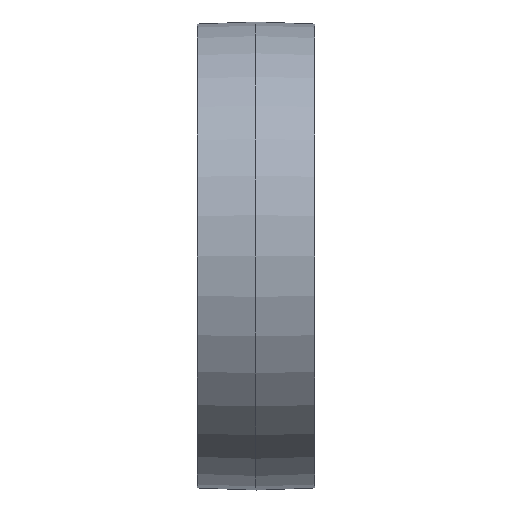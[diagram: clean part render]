
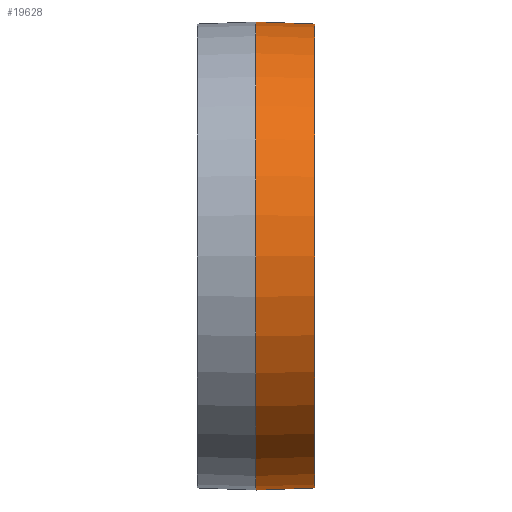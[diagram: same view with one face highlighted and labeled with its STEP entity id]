
A CAD part, front view. The second image highlights one B-rep face of the part: STEP entity #19628.
In plain terms, the highlighted conical face has half-angle 2 degrees and reference radius 50.356 mm.
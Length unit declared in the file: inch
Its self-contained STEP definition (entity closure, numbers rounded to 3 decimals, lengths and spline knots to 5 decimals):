
#237 = DIRECTION ( 'NONE',  ( -1., 0., 0. ) ) ;
#1628 = VECTOR ( 'NONE', #19383, 39.37008 ) ;
#2328 = VERTEX_POINT ( 'NONE', #13305 ) ;
#2577 = LINE ( 'NONE', #7606, #1628 ) ;
#2755 = ORIENTED_EDGE ( 'NONE', *, *, #21685, .F. ) ;
#5262 = DIRECTION ( 'NONE',  ( 0., 0., -1. ) ) ;
#5273 = CARTESIAN_POINT ( 'NONE',  ( 0.45181, 0., 0. ) ) ;
#6274 = LINE ( 'NONE', #21516, #19907 ) ;
#6960 = DIRECTION ( 'NONE',  ( 0., 0., -1. ) ) ;
#7098 = VERTEX_POINT ( 'NONE', #8703 ) ;
#7370 = CARTESIAN_POINT ( 'NONE',  ( -0.04819, 0., 2. ) ) ;
#7376 = CIRCLE ( 'NONE', #10235, 1.98254 ) ;
#7606 = CARTESIAN_POINT ( 'NONE',  ( 0.45181, 0., -1.98254 ) ) ;
#7942 = DIRECTION ( 'NONE',  ( -0.999, 0., 0.035 ) ) ;
#8051 = AXIS2_PLACEMENT_3D ( 'NONE', #12307, #8741, #5262 ) ;
#8179 = VERTEX_POINT ( 'NONE', #8492 ) ;
#8492 = CARTESIAN_POINT ( 'NONE',  ( 0.45181, 0., 1.98254 ) ) ;
#8703 = CARTESIAN_POINT ( 'NONE',  ( 0.45181, 0., -1.98254 ) ) ;
#8741 = DIRECTION ( 'NONE',  ( -1., 0., 0. ) ) ;
#10235 = AXIS2_PLACEMENT_3D ( 'NONE', #18492, #18262, #21630 ) ;
#12293 = AXIS2_PLACEMENT_3D ( 'NONE', #5273, #237, #6960 ) ;
#12307 = CARTESIAN_POINT ( 'NONE',  ( -0.04819, 0., 0. ) ) ;
#13305 = CARTESIAN_POINT ( 'NONE',  ( -0.04819, 0., -2. ) ) ;
#13337 = ORIENTED_EDGE ( 'NONE', *, *, #21624, .F. ) ;
#14765 = EDGE_CURVE ( 'NONE', #8179, #16183, #6274, .T. ) ;
#14808 = EDGE_CURVE ( 'NONE', #7098, #8179, #7376, .T. ) ;
#14984 = EDGE_LOOP ( 'NONE', ( #19226, #18983, #13337, #2755 ) ) ;
#16183 = VERTEX_POINT ( 'NONE', #7370 ) ;
#17167 = FACE_OUTER_BOUND ( 'NONE', #14984, .T. ) ;
#17726 = CIRCLE ( 'NONE', #8051, 2. ) ;
#18262 = DIRECTION ( 'NONE',  ( -1., 0., 0. ) ) ;
#18492 = CARTESIAN_POINT ( 'NONE',  ( 0.45181, 0., 0. ) ) ;
#18983 = ORIENTED_EDGE ( 'NONE', *, *, #14765, .T. ) ;
#19226 = ORIENTED_EDGE ( 'NONE', *, *, #14808, .T. ) ;
#19383 = DIRECTION ( 'NONE',  ( -0.999, 0., -0.035 ) ) ;
#19461 = CONICAL_SURFACE ( 'NONE', #12293, 1.98254, 0.035 ) ;
#19628 = ADVANCED_FACE ( 'NONE', ( #17167 ), #19461, .T. ) ;
#19907 = VECTOR ( 'NONE', #7942, 39.37008 ) ;
#21516 = CARTESIAN_POINT ( 'NONE',  ( 0.45181, 0., 1.98254 ) ) ;
#21624 = EDGE_CURVE ( 'NONE', #2328, #16183, #17726, .T. ) ;
#21630 = DIRECTION ( 'NONE',  ( 0., 0., -1. ) ) ;
#21685 = EDGE_CURVE ( 'NONE', #7098, #2328, #2577, .T. ) ;
